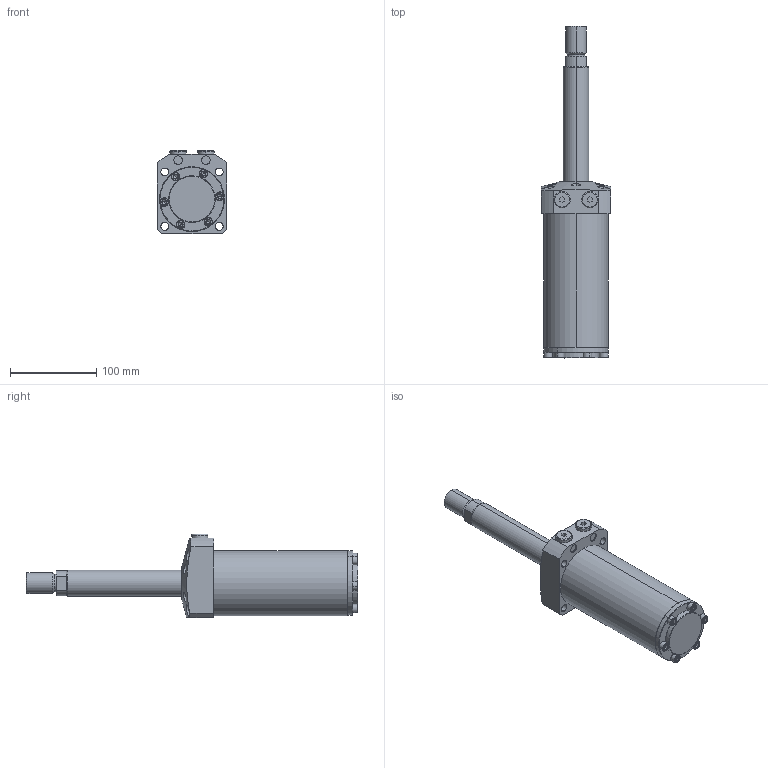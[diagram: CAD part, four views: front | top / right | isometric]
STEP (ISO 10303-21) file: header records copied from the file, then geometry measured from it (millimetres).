
FILE_DESCRIPTION (( 'STEP AP203' ), '1' );
FILE_NAME ('680750-CT-130.step', '2016-11-02T03:27:49', ( 'wxp' ), ( '' ), 'SwSTEP 2.0', 'SolidWorks 2011', '' );
FILE_SCHEMA (( 'CONFIG_CONTROL_DESIGN' ));
Length unit declared in the file: millimetre
Products named in the file (7): 68075-CA-76-3^680750-CT-130; 680750-CT-130; 680750-CA-130-11^680750-CT-130; 68075-CA-76-6^680750-CT-130; 68075-CA-76-5^680750-CT-130; 68075-CA-76-4^680750-CT-130; 68075-CA-130-1^680750-CT-130
Assembly tree (17 placements, depth 2):
  680750-CT-130
    68075-CA-76-5^680750-CT-130  x6
    68075-CA-76-6^680750-CT-130  x2
    68075-CA-130-1^680750-CT-130
    68075-CA-76-4^680750-CT-130  x6
    68075-CA-76-3^680750-CT-130
    680750-CA-130-11^680750-CT-130
Bounding box: 80 x 384 x 96.5 mm (x, y, z)
Volume: 1019507.6 mm3; surface area: 116631.8 mm2
Topology: 17 solids, 17 shells, 548 faces, 1034 edges, 541 vertices
Faces by surface type: plane 235, cone 168, cylinder 129, torus 16
Entity records: 7603 total; most frequent: CARTESIAN_POINT 1930, DIRECTION 1071, ORIENTED_EDGE 872, AXIS2_PLACEMENT_3D 447, EDGE_CURVE 436, VERTEX_POINT 259, EDGE_LOOP 255, CIRCLE 215
